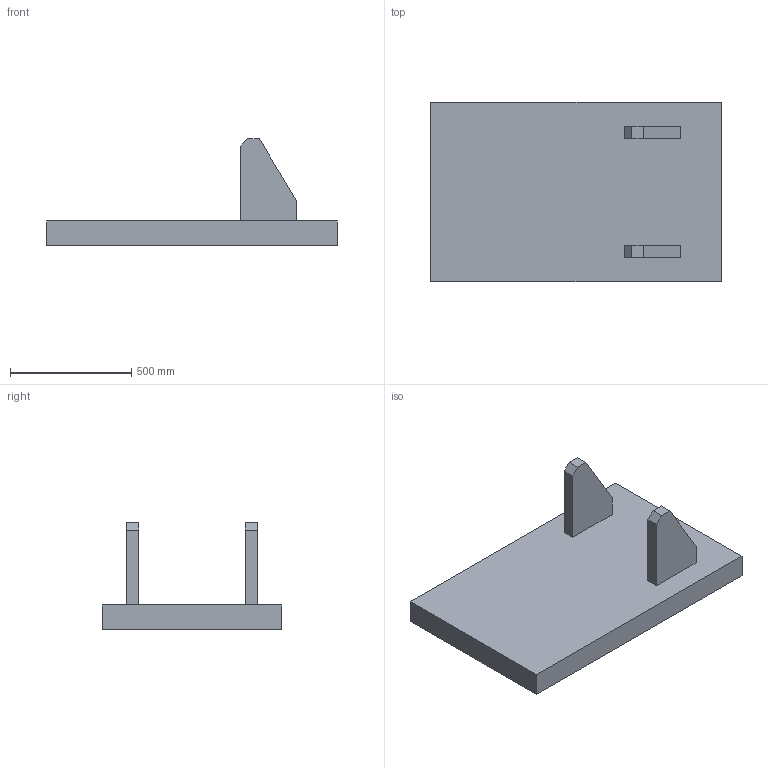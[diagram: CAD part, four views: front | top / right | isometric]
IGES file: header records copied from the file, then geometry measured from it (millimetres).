
Start section: This line is the first line of the start section. You can replacexxxxxxy these line and add as many as you want
Global section: file name: /usr2/plg/parts/_bcd/xx.iges; native system: COMPUTERVISION CADDS5 REV 5.0 GRAPHIC SYSTEM; preprocessor: CV Translator Products, Revision 1.1.3 PATCH; author: Author; organization: Organization; date: 950612.132617; units: millimetre
Bounding box: 1200 x 740 x 439.63 mm (x, y, z)
Surface area: 2500044.7 mm2 (no closed solid volume)
Topology: 0 solids, 0 shells, 22 faces, 96 edges, 96 vertices
Faces by surface type: bspline 22
